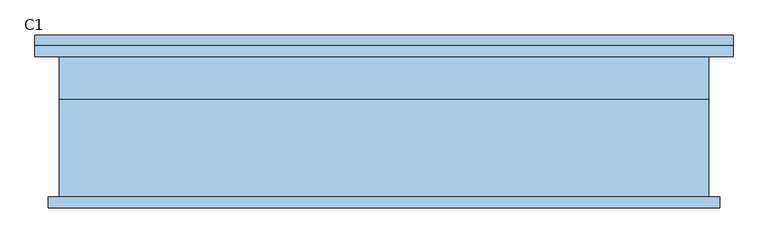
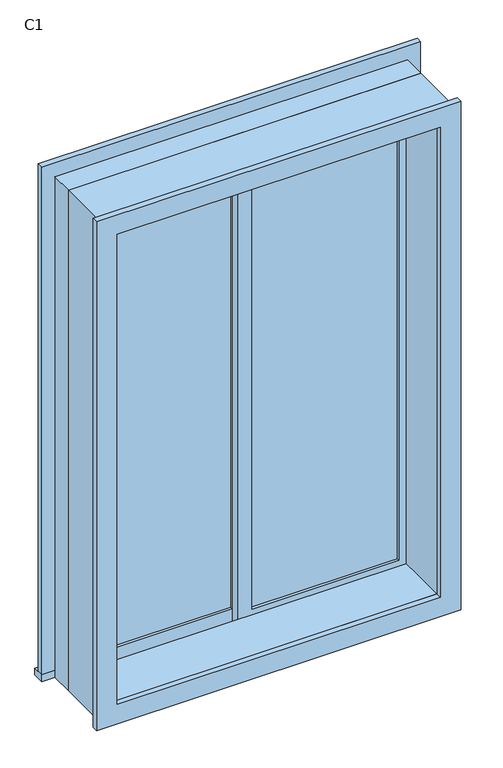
"""IFC4 building model written with IfcOpenShell, lengths in millimetres: window geometry, 推拉窗5 - 带贴面 : C1."""

import ifcopenshell
import ifcopenshell.guid

model = None  # the IFC model being written
_history = None  # IfcOwnerHistory: only IFC2X3 demands one
_inside = {}  # id of a spatial element -> (the spatial element, [elements in it])
_under = {}  # id of a project, library or spatial element -> (it, [spatial elements below it])
_declared = {}  # id of a project -> (the project, [libraries it declares])
_typed = {}  # id of a type object -> (the type object, [elements of that type])
_made_of = {}  # id of a material, layer set ... -> (it, [elements and type objects made of it])


def new_model(schema):
    """Start an empty IFC model of exactly this schema.

    Asked for "IFC4X3", IfcOpenShell would pick the latest addendum, in which some entities
    have other attributes; the version numbers below select the first issue.
    IFC2X3 requires an IfcOwnerHistory on every rooted entity: one is made here for all.
    """
    global model, _history
    if schema == "IFC4X3":
        model = ifcopenshell.file(schema_version=(4, 3, 0, 0))
    else:
        model = ifcopenshell.file(schema=schema)
    _inside.clear()
    _under.clear()
    _declared.clear()
    _typed.clear()
    _made_of.clear()
    _history = None
    if model.schema == "IFC2X3":
        org = make("IfcOrganization", Name="unknown")
        user = make(
            "IfcPersonAndOrganization",
            ThePerson=make("IfcPerson", FamilyName="unknown"),
            TheOrganization=org,
        )
        app = make(
            "IfcApplication",
            ApplicationDeveloper=org,
            Version="unknown",
            ApplicationFullName="unknown",
            ApplicationIdentifier="unknown",
        )
        _history = make(
            "IfcOwnerHistory",
            OwningUser=user,
            OwningApplication=app,
            ChangeAction="ADDED",
            CreationDate=0,
        )
    return model


def make(cls, **values):
    """One entity of the class cls with the attributes given. An attribute that is None is left unset."""
    return model.create_entity(
        cls, **{name: value for name, value in values.items() if value is not None}
    )


def rooted(cls, **values):
    """An entity with a GlobalId (a new one), such as an element, a storey or a relation."""
    return make(cls, GlobalId=ifcopenshell.guid.new(), OwnerHistory=_history, **values)


def si_unit(unit_type, name, prefix=None):
    """IfcSIUnit, for example si_unit("LENGTHUNIT", "METRE", prefix="MILLI")."""
    return make("IfcSIUnit", UnitType=unit_type, Prefix=prefix, Name=name)


def assignment(units):
    """IfcUnitAssignment: the units of a project."""
    return None if units is None else make("IfcUnitAssignment", Units=units)


def point(xyz):
    """IfcCartesianPoint."""
    return None if xyz is None else make("IfcCartesianPoint", Coordinates=xyz)


def direction(xyz):
    """IfcDirection."""
    return None if xyz is None else make("IfcDirection", DirectionRatios=xyz)


def frame(location, z_axis=None, x_axis=None):
    """IfcAxis2Placement3D, a coordinate frame: its origin and axes. An axis left out is left unset."""
    return make(
        "IfcAxis2Placement3D",
        Location=point(location),
        Axis=direction(z_axis),
        RefDirection=direction(x_axis),
    )


def origin():
    """The frame at (0, 0, 0) with its axes left unset."""
    return frame((0.0, 0.0, 0.0))


def place(relative_to, where):
    """IfcLocalPlacement: puts the frame where relative to a parent placement (None: the world)."""
    return make(
        "IfcLocalPlacement", PlacementRelTo=relative_to, RelativePlacement=where
    )


def context(
    kind, dimensions, precision=None, world=None, true_north=None, identifier=None
):
    """IfcGeometricRepresentationContext, for example the 3D "Model" context."""
    return make(
        "IfcGeometricRepresentationContext",
        ContextIdentifier=identifier,
        ContextType=kind,
        CoordinateSpaceDimension=dimensions,
        Precision=precision,
        WorldCoordinateSystem=world,
        TrueNorth=true_north,
    )


def project(units=None, contexts=None):
    """IfcProject with its units and contexts."""
    return rooted(
        "IfcProject",
        Name="project",
        RepresentationContexts=contexts,
        UnitsInContext=assignment(units),
    )


def spatial(cls, under=None, at=None, **own):
    """A site, building, storey or space (cls), placed at a placement, below another one or the project."""
    s = rooted(cls, ObjectPlacement=at, **own)
    if under is not None:
        _under.setdefault(under.id(), (under, []))[1].append(s)
    return s


def polyline(points):
    """IfcPolyline through the points."""
    return make("IfcPolyline", Points=[point(p) for p in points])


def outline(outer, holes=None, kind="AREA"):
    """IfcArbitraryClosedProfileDef: a profile drawn as a closed curve; with holes, ...WithVoids."""
    if holes is None:
        return make("IfcArbitraryClosedProfileDef", ProfileType=kind, OuterCurve=outer)
    return make(
        "IfcArbitraryProfileDefWithVoids",
        ProfileType=kind,
        OuterCurve=outer,
        InnerCurves=holes,
    )


def extrude(swept, where, along, depth):
    """IfcExtrudedAreaSolid: the profile swept, set in the frame where, extruded along a direction by depth."""
    return make(
        "IfcExtrudedAreaSolid",
        SweptArea=swept,
        Position=where,
        ExtrudedDirection=direction(along),
        Depth=depth,
    )


def shape(context_of_items, identifier, shape_type, items):
    """IfcShapeRepresentation: the items that make up one representation, for example the "Body"."""
    return make(
        "IfcShapeRepresentation",
        ContextOfItems=context_of_items,
        RepresentationIdentifier=identifier,
        RepresentationType=shape_type,
        Items=items,
    )


def source(mapping_origin, context_of_items, identifier, shape_type, items):
    """IfcRepresentationMap: a shape defined once, which mapped items show again and again."""
    return make(
        "IfcRepresentationMap",
        MappingOrigin=mapping_origin,
        MappedRepresentation=shape(context_of_items, identifier, shape_type, items),
    )


def transform(
    local_origin,
    x_axis=None,
    y_axis=None,
    z_axis=None,
    scale=None,
    scale2=None,
    scale3=None,
    uniform=True,
):
    """IfcCartesianTransformationOperator3D, or its non-uniform kind. x_axis, y_axis, z_axis: its Axis1, 2, 3."""
    if uniform:
        return make(
            "IfcCartesianTransformationOperator3D",
            Axis1=direction(x_axis),
            Axis2=direction(y_axis),
            LocalOrigin=point(local_origin),
            Scale=scale,
            Axis3=direction(z_axis),
        )
    return make(
        "IfcCartesianTransformationOperator3DnonUniform",
        Axis1=direction(x_axis),
        Axis2=direction(y_axis),
        LocalOrigin=point(local_origin),
        Scale=scale,
        Axis3=direction(z_axis),
        Scale2=scale2,
        Scale3=scale3,
    )


def mapped(mapping_source, mapping_target):
    """IfcMappedItem: shows the shape of a source again, moved by a transform."""
    return make(
        "IfcMappedItem", MappingSource=mapping_source, MappingTarget=mapping_target
    )


def made_of(thing, what):
    """Note that an element or type object is made of a material, layer set ...; save() writes the relation."""
    if what is not None:
        _made_of.setdefault(what.id(), (what, []))[1].append(thing)
    return thing


def element(
    cls,
    number,
    at=None,
    inside=None,
    cuts=None,
    type_object=None,
    material=None,
    context=None,
    identifier="Body",
    shape_type=None,
    held_by="IfcProductDefinitionShape",
    body=None,
    shapes=None,
    **own,
):
    """One element of the class cls, such as IfcWall. Its Tag is "e" and its number.

    at: its placement. inside: the storey or other place that contains it. cuts: it is an
    opening in that element (IfcRelVoidsElement). A single representation is given by context,
    identifier, shape_type and body (its items); several are given by shapes. held_by: the class
    of the entity that holds the representations. save() writes the other relations.
    """
    e = rooted(cls, Tag="e%d" % number, ObjectPlacement=at, **own)
    if body is not None:
        shapes = [shape(context, identifier, shape_type, body)]
    if shapes is not None:
        e.Representation = make(held_by, Representations=shapes)
    if inside is not None:
        _inside.setdefault(inside.id(), (inside, []))[1].append(e)
    if cuts is not None:
        rooted(
            "IfcRelVoidsElement", RelatingBuildingElement=cuts, RelatedOpeningElement=e
        )
    if type_object is not None:
        _typed.setdefault(type_object.id(), (type_object, []))[1].append(e)
    return made_of(e, material)


def aggregate(whole, parts):
    """IfcRelAggregates: a whole, such as a stair, and the parts it consists of."""
    return rooted("IfcRelAggregates", RelatingObject=whole, RelatedObjects=parts)


def save(model, path):
    """Write the relations noted so far, then the file.

    IfcRelAggregates (storeys below a building ...), IfcRelContainedInSpatialStructure (elements
    in a storey), IfcRelDefinesByType, IfcRelAssociatesMaterial and IfcRelDeclares: one each for
    every whole, place, type object, material and project.
    """
    for whole, parts in _under.values():
        aggregate(whole, parts)
    for where, things in _inside.values():
        rooted(
            "IfcRelContainedInSpatialStructure",
            RelatedElements=things,
            RelatingStructure=where,
        )
    for kind, things in _typed.values():
        rooted("IfcRelDefinesByType", RelatedObjects=things, RelatingType=kind)
    for what, things in _made_of.values():
        rooted("IfcRelAssociatesMaterial", RelatedObjects=things, RelatingMaterial=what)
    for by, libraries in _declared.values():
        rooted("IfcRelDeclares", RelatingContext=by, RelatedDefinitions=libraries)
    model.write(path)


def c1_f694383f(model_context):
    return source(origin(), model_context, "Body", "SweptSolid", [
        extrude(outline(polyline([(-515.475, 33.1265625), (-15.475, 33.1265625), (-15.475, 23.1265625), (-515.475, 23.1265625), (-515.475, 33.1265625)])), frame((0.0, 0.0, 980.0), z_axis=(0.0, 0.0, 1.0), x_axis=(1.0, 0.0, 0.0)), (0.0, 0.0, 1.0), 1650.0),
        extrude(outline(polyline([(34.525, 3.1265625), (534.525, 3.1265625), (534.525, -6.8734375), (34.525, -6.8734375), (34.525, 3.1265625)])), frame((0.0, 0.0, 980.0), z_axis=(0.0, 0.0, 1.0), x_axis=(1.0, 0.0, 0.0)), (0.0, 0.0, 1.0), 1650.0),
        extrude(outline(polyline([(2705.0, -590.475), (905.0, -590.475), (905.0, 609.525), (2705.0, 609.525), (2705.0, -590.475)]), holes=[polyline([(2650.0, 559.525), (960.0, 559.525), (960.0, -540.475), (2650.0, -540.475), (2650.0, 559.525)])]), frame((0.0, -196.8734375, 0.0), z_axis=(0.0, 1.0, 0.0), x_axis=(0.0, 0.0, 1.0)), (0.0, 0.0, 1.0), 180.0),
        extrude(outline(polyline([(930.0, 34.525), (2680.0, 34.525), (2680.0, -565.475), (930.0, -565.475), (930.0, 34.525)]), holes=[polyline([(980.0, -15.475), (980.0, -515.475), (2630.0, -515.475), (2630.0, -15.475), (980.0, -15.475)])]), frame((0.0, 13.1265625, 0.0), z_axis=(0.0, 1.0, 0.0), x_axis=(0.0, 0.0, 1.0)), (0.0, 0.0, 1.0), 30.0),
        extrude(outline(polyline([(2680.0, -15.475), (930.0, -15.475), (930.0, 584.525), (2680.0, 584.525), (2680.0, -15.475)]), holes=[polyline([(2630.0, 34.525), (2630.0, 534.525), (980.0, 534.525), (980.0, 34.525), (2630.0, 34.525)])]), frame((0.0, -16.8734375, 0.0), z_axis=(0.0, 1.0, 0.0), x_axis=(0.0, 0.0, 1.0)), (0.0, 0.0, 1.0), 30.0),
        extrude(outline(polyline([(2705.0, -590.475), (905.0, -590.475), (905.0, 609.525), (2705.0, 609.525), (2705.0, -590.475)]), holes=[polyline([(930.0, -565.475), (2680.0, -565.475), (2680.0, 584.525), (930.0, 584.525), (930.0, -565.475)])]), frame((0.0, -16.8734375, 0.0), z_axis=(0.0, 1.0, 0.0), x_axis=(0.0, 0.0, 1.0)), (0.0, 0.0, 1.0), 80.0),
        extrude(outline(polyline([(2720.0, -610.475), (890.0, -610.475), (890.0, 629.525), (2720.0, 629.525), (2720.0, -610.475)]), holes=[polyline([(960.0, 559.525), (960.0, -540.475), (2650.0, -540.475), (2650.0, 559.525), (960.0, 559.525)])]), frame((0.0, -216.8734375, 0.0), z_axis=(0.0, 1.0, 0.0), x_axis=(0.0, 0.0, 1.0)), (0.0, 0.0, 1.0), 20.0),
        extrude(outline(polyline([(-635.475, 103.1265625), (654.525, 103.1265625), (654.525, 63.1265625), (-635.475, 63.1265625), (-635.475, 103.1265625)])), frame((0.0, 0.0, 905.0), z_axis=(0.0, 0.0, 1.0), x_axis=(1.0, 0.0, 0.0)), (0.0, 0.0, 1.0), 25.0),
        extrude(outline(polyline([(930.0, 654.525), (2755.0, 654.525), (2755.0, -635.475), (930.0, -635.475), (930.0, -565.475), (2680.0, -565.475), (2680.0, 584.525), (930.0, 584.525), (930.0, 654.525)])), frame((0.0, 63.1265625, 0.0), z_axis=(0.0, 1.0, 0.0), x_axis=(0.0, 0.0, 1.0)), (0.0, 0.0, 1.0), 20.0),
    ])


if __name__ == "__main__":
    model = new_model("IFC4")
    model_context = context("Model", 3, world=origin())
    ifc_project = project(units=[si_unit("LENGTHUNIT", "METRE", prefix="MILLI")], contexts=[model_context])
    site = spatial("IfcSite", under=ifc_project)
    building = spatial("IfcBuilding", under=site)
    placement = place(None, origin())
    c1_shape = c1_f694383f(model_context)
    element("IfcWindow", 1, ObjectType="推拉窗5 - 带贴面 : C1", at=placement, inside=building, context=model_context, shape_type="MappedRepresentation", body=[
        mapped(c1_shape, transform((0.0, 0.0, 0.0), x_axis=(1.0, 0.0, 0.0), y_axis=(0.0, 1.0, 0.0), z_axis=(0.0, 0.0, 1.0))),
    ])
    save(model, "model.ifc")
